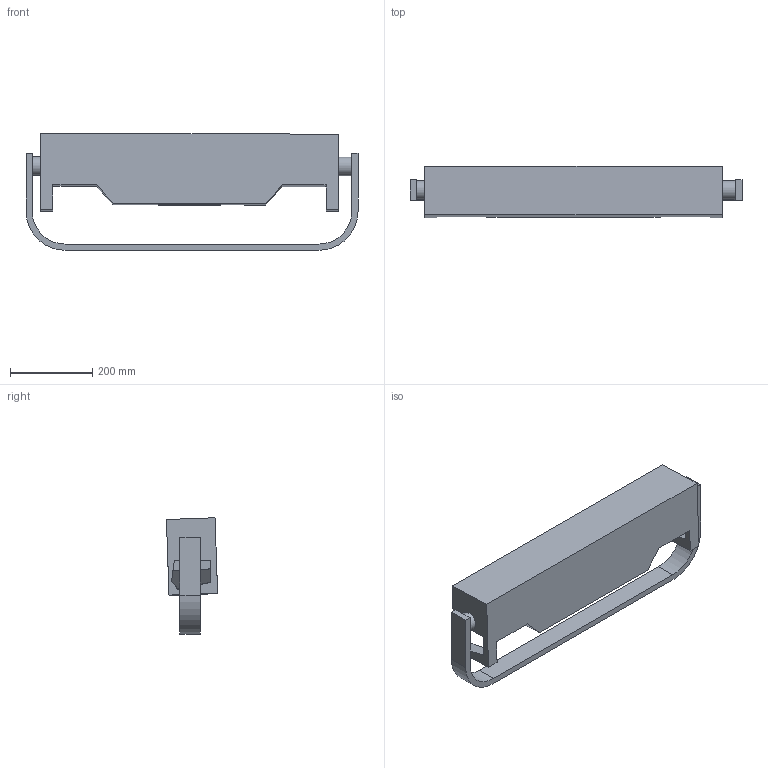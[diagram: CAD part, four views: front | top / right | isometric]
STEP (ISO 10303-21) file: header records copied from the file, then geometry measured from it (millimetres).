
FILE_DESCRIPTION(/* description */ (''),/* implementation_level */ '2;1');
FILE_NAME(/* name */ 'onAir Panel 3 IP_0_3D.stp',/* time_stamp */ '2024-04-10T10:52:34-04:00',/* author */ ('dgooch'),/* organization */ (''),/* preprocessor_version */ 'ST-DEVELOPER v20',/* originating_system */ 'Autodesk Inventor 2024',/* authorisation */ '');
FILE_SCHEMA (('AUTOMOTIVE_DESIGN { 1 0 10303 214 3 1 1 }'));
Length unit declared in the file: millimetre
Products named in the file (3): onAir Panel 3 IP_0; Component1; Component2
Assembly tree (2 placements, depth 2):
  onAir Panel 3 IP_0
    Component1
    Component2
Bounding box: 808.4 x 124.78 x 283.59 mm (x, y, z)
Volume: 13888359.5 mm3; surface area: 622784.8 mm2
Topology: 2 solids, 2 shells, 53 faces, 138 edges, 92 vertices
Faces by surface type: plane 45, cylinder 6, bspline 2
Full cylindrical faces by diameter (mm): 45.369 x2
Entity records: 3483 total; most frequent: CARTESIAN_POINT 2050, ORIENTED_EDGE 276, DIRECTION 258, EDGE_CURVE 138, LINE 122, VECTOR 122, VERTEX_POINT 92, AXIS2_PLACEMENT_3D 68
